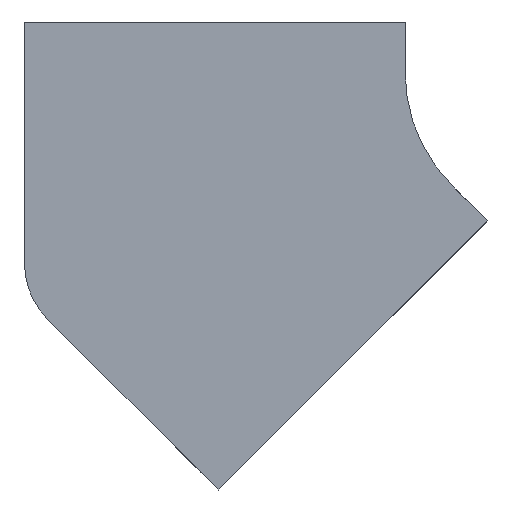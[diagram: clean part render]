
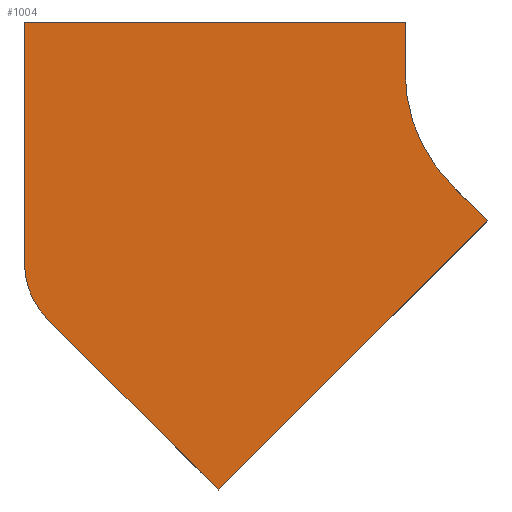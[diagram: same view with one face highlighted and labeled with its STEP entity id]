
A CAD part, front view. The second image highlights one B-rep face of the part: STEP entity #1004.
In plain terms, the highlighted planar face has unit normal (0, -1, 0).
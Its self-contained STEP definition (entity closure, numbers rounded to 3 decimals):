
#6 = CARTESIAN_POINT ( 'NONE',  ( -125., 0., 0. ) ) ;
#16 = ORIENTED_EDGE ( 'NONE', *, *, #216, .F. ) ;
#97 = ORIENTED_EDGE ( 'NONE', *, *, #191, .F. ) ;
#191 = EDGE_CURVE ( 'NONE', #1192, #1290, #994, .T. ) ;
#200 = AXIS2_PLACEMENT_3D ( 'NONE', #653, #506, #1147 ) ;
#216 = EDGE_CURVE ( 'NONE', #1668, #733, #643, .T. ) ;
#279 = PLANE ( 'NONE',  #1191 ) ;
#285 = DIRECTION ( 'NONE',  ( 0., 0., -1. ) ) ;
#309 = VECTOR ( 'NONE', #880, 1000. ) ;
#366 = ORIENTED_EDGE ( 'NONE', *, *, #1414, .F. ) ;
#370 = ORIENTED_EDGE ( 'NONE', *, *, #1164, .F. ) ;
#469 = CARTESIAN_POINT ( 'NONE',  ( -88.388, 0., -88.388 ) ) ;
#484 = VERTEX_POINT ( 'NONE', #776 ) ;
#500 = CARTESIAN_POINT ( 'NONE',  ( -425., 0., -150.152 ) ) ;
#506 = DIRECTION ( 'NONE',  ( 0., 1., 0. ) ) ;
#510 = CARTESIAN_POINT ( 'NONE',  ( -125., 0., 40. ) ) ;
#513 = LINE ( 'NONE', #500, #1627 ) ;
#526 = DIRECTION ( 'NONE',  ( 0., 0., -1. ) ) ;
#574 = CARTESIAN_POINT ( 'NONE',  ( -88.388, 0., -88.388 ) ) ;
#622 = VECTOR ( 'NONE', #1091, 1000. ) ;
#636 = DIRECTION ( 'NONE',  ( 0., -1., 0. ) ) ;
#643 = CIRCLE ( 'NONE', #200, 62.5 ) ;
#653 = CARTESIAN_POINT ( 'NONE',  ( -362.5, 0., -150.152 ) ) ;
#714 = EDGE_CURVE ( 'NONE', #1445, #1192, #1122, .T. ) ;
#732 = CARTESIAN_POINT ( 'NONE',  ( -125., 0., 40. ) ) ;
#733 = VERTEX_POINT ( 'NONE', #924 ) ;
#737 = CARTESIAN_POINT ( 'NONE',  ( 0., 0., 0. ) ) ;
#776 = CARTESIAN_POINT ( 'NONE',  ( -272.236, 0., -328.805 ) ) ;
#802 = ORIENTED_EDGE ( 'NONE', *, *, #1486, .F. ) ;
#833 = VECTOR ( 'NONE', #999, 1000. ) ;
#880 = DIRECTION ( 'NONE',  ( 1., 0., 0. ) ) ;
#924 = CARTESIAN_POINT ( 'NONE',  ( -425., 0., -150.152 ) ) ;
#930 = CARTESIAN_POINT ( 'NONE',  ( -406.694, 0., -194.347 ) ) ;
#994 = CIRCLE ( 'NONE', #1431, 125. ) ;
#999 = DIRECTION ( 'NONE',  ( 0., 0., -1. ) ) ;
#1002 = LINE ( 'NONE', #1530, #309 ) ;
#1004 = ADVANCED_FACE ( 'NONE', ( #1400 ), #279, .T. ) ;
#1026 = CARTESIAN_POINT ( 'NONE',  ( 0., 0., 0. ) ) ;
#1067 = ORIENTED_EDGE ( 'NONE', *, *, #714, .F. ) ;
#1091 = DIRECTION ( 'NONE',  ( 0.707, 0., -0.707 ) ) ;
#1122 = LINE ( 'NONE', #732, #833 ) ;
#1125 = DIRECTION ( 'NONE',  ( -0.707, 0., 0.707 ) ) ;
#1147 = DIRECTION ( 'NONE',  ( 0., 0., 1. ) ) ;
#1149 = LINE ( 'NONE', #1261, #1522 ) ;
#1150 = DIRECTION ( 'NONE',  ( 0., 0., 1. ) ) ;
#1164 = EDGE_CURVE ( 'NONE', #1290, #1648, #1479, .T. ) ;
#1191 = AXIS2_PLACEMENT_3D ( 'NONE', #737, #1525, #526 ) ;
#1192 = VERTEX_POINT ( 'NONE', #6 ) ;
#1218 = ORIENTED_EDGE ( 'NONE', *, *, #1335, .F. ) ;
#1261 = CARTESIAN_POINT ( 'NONE',  ( -272.236, 0., -328.805 ) ) ;
#1290 = VERTEX_POINT ( 'NONE', #469 ) ;
#1316 = DIRECTION ( 'NONE',  ( -0.707, 0., -0.707 ) ) ;
#1323 = CARTESIAN_POINT ( 'NONE',  ( -60.104, 0., -116.673 ) ) ;
#1335 = EDGE_CURVE ( 'NONE', #484, #1668, #1149, .T. ) ;
#1400 = FACE_OUTER_BOUND ( 'NONE', #1599, .T. ) ;
#1405 = CARTESIAN_POINT ( 'NONE',  ( -425., 0., 40. ) ) ;
#1414 = EDGE_CURVE ( 'NONE', #1454, #1445, #1002, .T. ) ;
#1431 = AXIS2_PLACEMENT_3D ( 'NONE', #1026, #636, #285 ) ;
#1445 = VERTEX_POINT ( 'NONE', #510 ) ;
#1454 = VERTEX_POINT ( 'NONE', #1405 ) ;
#1455 = CARTESIAN_POINT ( 'NONE',  ( -60.104, 0., -116.673 ) ) ;
#1468 = LINE ( 'NONE', #1323, #1626 ) ;
#1479 = LINE ( 'NONE', #574, #622 ) ;
#1486 = EDGE_CURVE ( 'NONE', #733, #1454, #513, .T. ) ;
#1522 = VECTOR ( 'NONE', #1125, 1000. ) ;
#1525 = DIRECTION ( 'NONE',  ( 0., -1., 0. ) ) ;
#1530 = CARTESIAN_POINT ( 'NONE',  ( -425., 0., 40. ) ) ;
#1577 = ORIENTED_EDGE ( 'NONE', *, *, #1633, .F. ) ;
#1599 = EDGE_LOOP ( 'NONE', ( #366, #802, #16, #1218, #1577, #370, #97, #1067 ) ) ;
#1626 = VECTOR ( 'NONE', #1316, 1000. ) ;
#1627 = VECTOR ( 'NONE', #1150, 1000. ) ;
#1633 = EDGE_CURVE ( 'NONE', #1648, #484, #1468, .T. ) ;
#1648 = VERTEX_POINT ( 'NONE', #1455 ) ;
#1668 = VERTEX_POINT ( 'NONE', #930 ) ;
